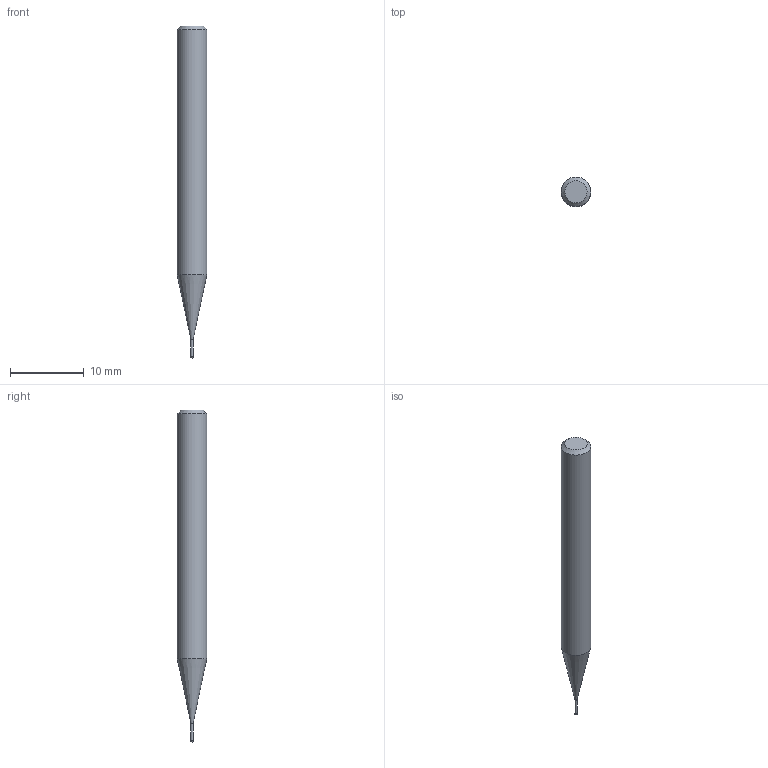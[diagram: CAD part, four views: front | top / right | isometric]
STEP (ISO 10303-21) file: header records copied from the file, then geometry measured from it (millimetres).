
FILE_DESCRIPTION((''),'2;1');
FILE_NAME('C:\Users\nsx150\AppData\Local\Temp\Mastercam 2021\3SYKECWX22\TEMP.step','2021-04-22T09:59:27',(''),(''),'STEP Write','Mastercam 2021 ... CNC Software, Inc.','');
FILE_SCHEMA(('AUTOMOTIVE_DESIGN'));
Length unit declared in the file: millimetre
Products named in the file (1): None
Bounding box: 4 x 4 x 45 mm (x, y, z)
Volume: 462.2 mm3; surface area: 495.2 mm2
Topology: 2 solids, 2 shells, 9 faces, 14 edges, 8 vertices
Faces by surface type: plane 3, cylinder 3, cone 2, sphere 1
Full cylindrical faces by diameter (mm): 0.28 x1, 0.3 x1, 4 x1
Entity records: 211 total; most frequent: DIRECTION 36, CARTESIAN_POINT 25, AXIS2_PLACEMENT_3D 18, ORIENTED_EDGE 14, EDGE_LOOP 14, STYLED_ITEM 12, ADVANCED_FACE 9, FACE_BOUND 8
